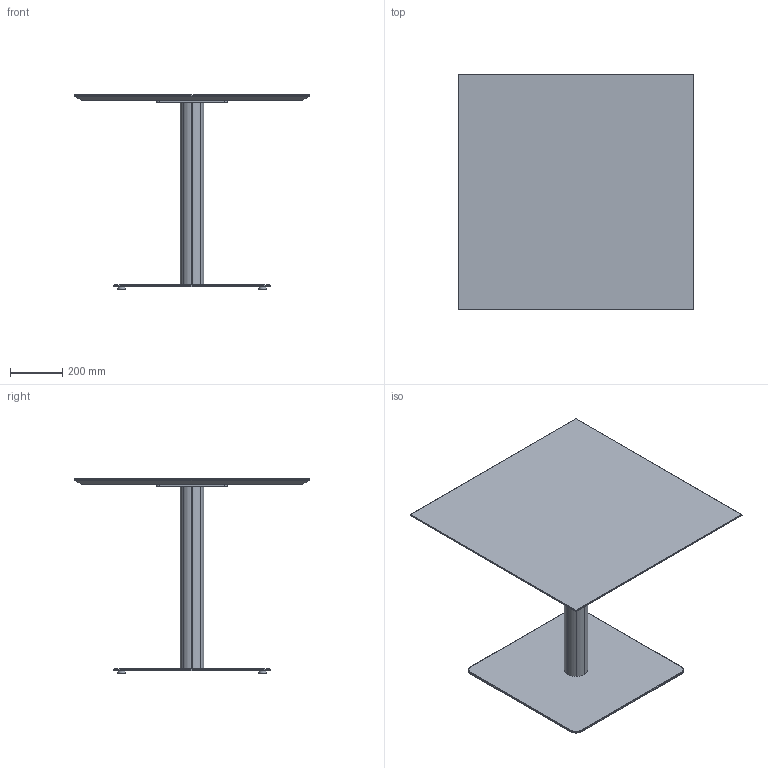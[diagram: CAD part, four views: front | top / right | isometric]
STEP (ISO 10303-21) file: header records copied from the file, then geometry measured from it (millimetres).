
FILE_DESCRIPTION( ('This file contains a STEP AP42 implementation' ,'as created by ZW3D STEP Interface translator.') ,'2;1' );
FILE_NAME( 'Fut - B_Carré - F4 - M5 - 900 x 900 x 750.stp' ,'24 911.164259', (''), ('ZWCAD Software Co.'), 'Version 1.0', 'ZW3D to STEP translator', '' );
FILE_SCHEMA(('AUTOMOTIVE_DESIGN { 1 0 10303 214 1 1 1 1 }'));
Length unit declared in the file: millimetre
Products named in the file (15): 0; PIED BISTROT PARAMETRIQUE_; CROIX ACIER 370 V.02_; CRX-X370-02_; SOCLE ACIER L 600x600 V.02_; SCL-R600-02_; PLA-R30A-01_; PLA-R30A-01; COLONNE ACIER Ø48.5 V.02_; TUB-D048-02_; PLA-R48A-01_; COLONNE BOIS PARAMETIQUE_; WUERTH 0276063020 Euro-screw 6.3x2 Verzinkt_; PLATEAU BISTROT PARAMETRIQUE_; insert_m6_13_
Assembly tree (23 placements, depth 3):
  0
  PIED BISTROT PARAMETRIQUE_
    CROIX ACIER 370 V.02_
      CRX-X370-02_
    SOCLE ACIER L 600x600 V.02_
      SCL-R600-02_
      PLA-R30A-01_
      PLA-R30A-01  x3
    COLONNE ACIER Ø48.5 V.02_
      TUB-D048-02_
      PLA-R48A-01_  x2
    COLONNE BOIS PARAMETIQUE_
    WUERTH 0276063020 Euro-screw 6.3x2 Verzinkt_
    PLATEAU BISTROT PARAMETRIQUE_
      insert_m6_13_  x8
Bounding box: 900 x 900 x 744 mm (x, y, z)
Volume: 21893454.2 mm3; surface area: 3176213.3 mm2
Topology: 23 solids, 23 shells, 557 faces, 1354 edges, 850 vertices
Faces by surface type: plane 282, bspline 125, cylinder 104, cone 45, torus 1
Full cylindrical faces by diameter (mm): 4.88 x1, 6 x8, 6.3 x1, 8 x45, 12 x2, 14 x2, 30 x4, 44.5 x3, 48.5 x1
Entity records: 13027 total; most frequent: CARTESIAN_POINT 3533, ORIENTED_EDGE 1722, DIRECTION 1612, EDGE_CURVE 861, VECTOR 554, LINE 554, VERTEX_POINT 552, AXIS2_PLACEMENT_3D 529
